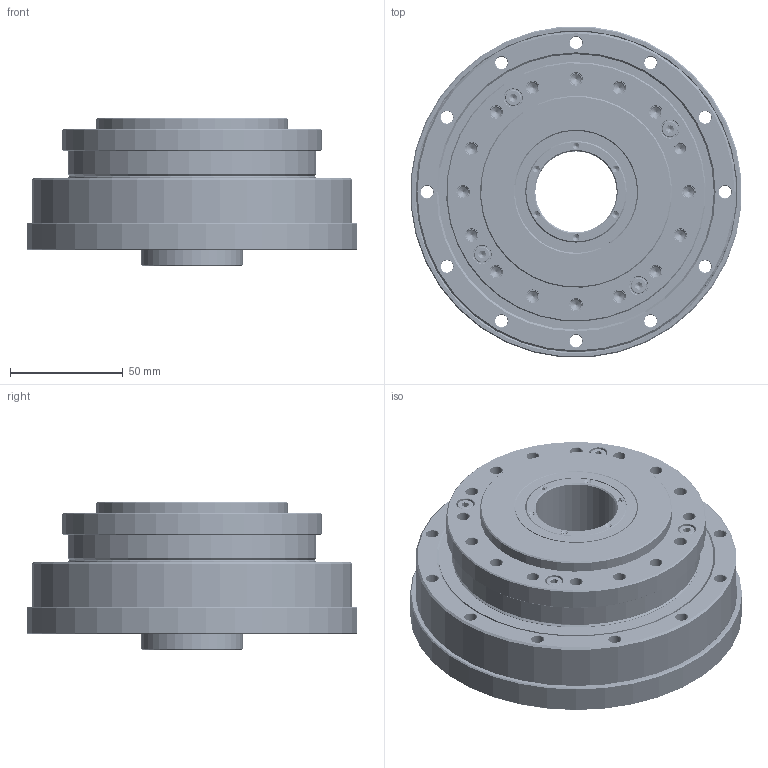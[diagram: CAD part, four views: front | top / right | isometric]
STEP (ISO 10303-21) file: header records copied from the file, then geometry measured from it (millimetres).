
FILE_DESCRIPTION(/* description */ (''),/* implementation_level */ '2;1');
FILE_NAME(/* name */ 'LHT-32-XX-U-III.stp',/* time_stamp */ '2023-07-29T10:55:02+08:00',/* author */ (''),/* organization */ (''),/* preprocessor_version */ 'ST-DEVELOPER v16.7',/* originating_system */ 'SIEMENS PLM Software NX 12.0',/* authorisation */ '');
FILE_SCHEMA (('AUTOMOTIVE_DESIGN { 1 0 10303 214 3 1 1 1 }'));
Products named in the file (21): EB608012-32KC-46; EB608012-32KC-01; TC-110x122x6; SC-45x54x4; SC-45x60x5; GB-T70.1-2000,M4x20; GB-T276_60000_2RZ-1994,61909_2RZ; GB-T276_60000_2RZ-1994,61809_2RZ; LHT-32-XX-III; LHT-32-00-III下壳体; LHT-32-00-III上壳体; 内六角平圆头螺钉M4x10; 内六角平圆头螺钉M4x12; O-120x1.5; O-90x1; GB-T70.1-2000,M4x16; 柔轮LHT-32; 刚轮LHT-32; EB608012-32KC; 交叉轴承LHT-32; LHT-32-XX-U-III
Assembly tree (32 placements, depth 3):
  LHT-32-XX-U-III
    交叉轴承LHT-32
      TC-110x122x6
    刚轮LHT-32
    柔轮LHT-32
    EB608012-32KC
      EB608012-32KC-01
      EB608012-32KC-46
    GB-T70.1-2000,M4x16  x4
    O-90x1
    O-120x1.5
    内六角平圆头螺钉M4x12  x4
    内六角平圆头螺钉M4x10  x4
    LHT-32-00-III上壳体
    LHT-32-00-III下壳体
    LHT-32-XX-III
    GB-T276_60000_2RZ-1994,61809_2RZ
    GB-T276_60000_2RZ-1994,61909_2RZ
    GB-T70.1-2000,M4x20  x4
    SC-45x60x5
    SC-45x54x4
Bounding box: 146.44 x 146.44 x 65.5 mm (x, y, z)
Volume: 484879.2 mm3; surface area: 299947.3 mm2
Topology: 103 solids, 104 shells, 1524 faces, 3566 edges, 2186 vertices
Faces by surface type: cone 472, cylinder 445, plane 405, torus 110, sphere 65, bspline 25, revolution 2
Full cylindrical faces by diameter (mm): 2.5 x110, 3.3 x16, 3.838 x16, 4.2 x16, 4.5 x24, 5.5 x68, 7 x16, 8 x16, 36 x2, 36.3 x1, 42.5 x1, 44.5 x2, 45 x7, 49 x1, 49.334 x2, 50 x1, 52.667 x2, 53.666 x2, 54 x2, 54.366 x4, 58 x2, 58.5 x1, 60 x4, 60.333 x2, 61.533 x4, 63.5 x1, 63.6 x2, 65.5 x1, 68 x3, 69 x1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
Entity records: 72591 total; most frequent: CARTESIAN_POINT 50031, DIRECTION 4659, ORIENTED_EDGE 3084, AXIS2_PLACEMENT_3D 2234, EDGE_LOOP 1950, FACE_BOUND 1785, EDGE_CURVE 1542, VERTEX_POINT 1385
